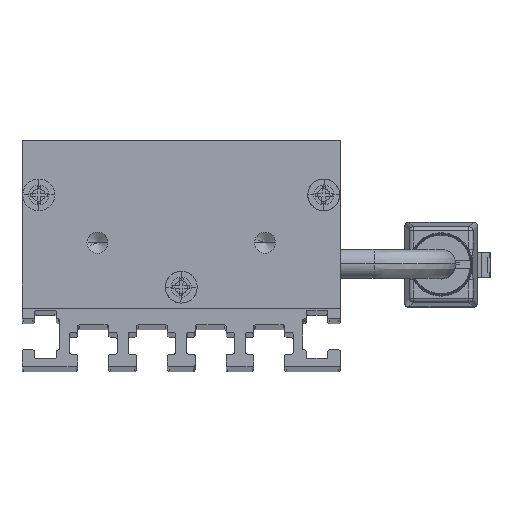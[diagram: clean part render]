
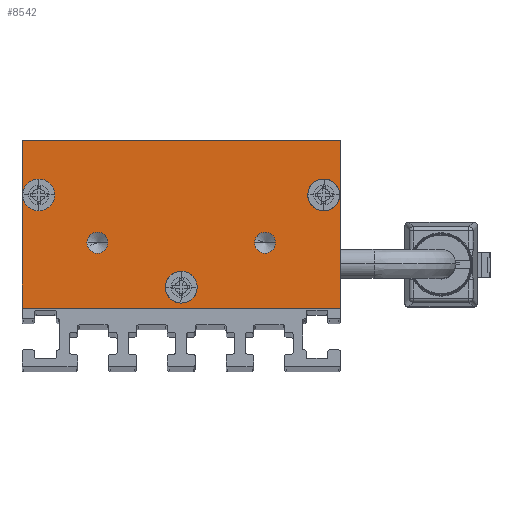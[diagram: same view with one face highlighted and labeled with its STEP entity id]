
A CAD part, top view. The second image highlights one B-rep face of the part: STEP entity #8542.
In plain terms, the highlighted planar face has unit normal (0, 0, 1) as drawn and (0, 0, -1) by its records, which use the part's own axes.
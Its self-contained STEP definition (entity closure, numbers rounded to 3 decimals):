
#377 = DIRECTION ( 'NONE',  ( 0., 0., -1. ) ) ;
#430 = DIRECTION ( 'NONE',  ( -1., 0., 0. ) ) ;
#445 = CARTESIAN_POINT ( 'NONE',  ( 0., 0., -2.5 ) ) ;
#489 = ORIENTED_EDGE ( 'NONE', *, *, #15315, .F. ) ;
#563 = CARTESIAN_POINT ( 'NONE',  ( -15.1, 13.5, -2.5 ) ) ;
#689 = EDGE_CURVE ( 'NONE', #4897, #12582, #3563, .T. ) ;
#755 = LINE ( 'NONE', #13297, #4472 ) ;
#1446 = CARTESIAN_POINT ( 'NONE',  ( 11.25, 7.8, -2.5 ) ) ;
#1677 = FACE_OUTER_BOUND ( 'NONE', #13150, .T. ) ;
#1710 = VERTEX_POINT ( 'NONE', #10610 ) ;
#1953 = AXIS2_PLACEMENT_3D ( 'NONE', #6510, #10145, #13967 ) ;
#2007 = EDGE_CURVE ( 'NONE', #14649, #13573, #15120, .T. ) ;
#2078 = AXIS2_PLACEMENT_3D ( 'NONE', #9175, #377, #14063 ) ;
#2091 = ORIENTED_EDGE ( 'NONE', *, *, #15517, .F. ) ;
#2109 = AXIS2_PLACEMENT_3D ( 'NONE', #9812, #4901, #16376 ) ;
#2257 = DIRECTION ( 'NONE',  ( 0., 0., -1. ) ) ;
#2588 = CIRCLE ( 'NONE', #11357, 1.25 ) ;
#2791 = CARTESIAN_POINT ( 'NONE',  ( 8.75, 7.8, -2.5 ) ) ;
#2872 = VERTEX_POINT ( 'NONE', #563 ) ;
#2938 = FACE_BOUND ( 'NONE', #3687, .T. ) ;
#3035 = EDGE_CURVE ( 'NONE', #8190, #3746, #8361, .T. ) ;
#3145 = AXIS2_PLACEMENT_3D ( 'NONE', #445, #5503, #4262 ) ;
#3304 = AXIS2_PLACEMENT_3D ( 'NONE', #5016, #12431, #10087 ) ;
#3386 = CIRCLE ( 'NONE', #14783, 1.9 ) ;
#3396 = LINE ( 'NONE', #11120, #11118 ) ;
#3549 = VECTOR ( 'NONE', #15173, 1000. ) ;
#3553 = VERTEX_POINT ( 'NONE', #10935 ) ;
#3563 = CIRCLE ( 'NONE', #13637, 1.9 ) ;
#3687 = EDGE_LOOP ( 'NONE', ( #5151, #12622 ) ) ;
#3737 = CARTESIAN_POINT ( 'NONE',  ( -19., 0., -2.5 ) ) ;
#3746 = VERTEX_POINT ( 'NONE', #12277 ) ;
#3783 = VERTEX_POINT ( 'NONE', #9760 ) ;
#3786 = DIRECTION ( 'NONE',  ( 0., 0., -1. ) ) ;
#4262 = DIRECTION ( 'NONE',  ( 1., 0., 0. ) ) ;
#4348 = EDGE_CURVE ( 'NONE', #13003, #9465, #8070, .T. ) ;
#4472 = VECTOR ( 'NONE', #7166, 1000. ) ;
#4719 = CARTESIAN_POINT ( 'NONE',  ( 18.9, 13.5, -2.5 ) ) ;
#4865 = CIRCLE ( 'NONE', #1953, 1.9 ) ;
#4897 = VERTEX_POINT ( 'NONE', #5736 ) ;
#4901 = DIRECTION ( 'NONE',  ( 0., 0., -1. ) ) ;
#5016 = CARTESIAN_POINT ( 'NONE',  ( -10., 7.8, -2.5 ) ) ;
#5151 = ORIENTED_EDGE ( 'NONE', *, *, #13873, .F. ) ;
#5503 = DIRECTION ( 'NONE',  ( 0., 0., 1. ) ) ;
#5705 = ORIENTED_EDGE ( 'NONE', *, *, #6884, .F. ) ;
#5736 = CARTESIAN_POINT ( 'NONE',  ( 15.1, 13.5, -2.5 ) ) ;
#6206 = EDGE_LOOP ( 'NONE', ( #15386, #15390 ) ) ;
#6379 = CARTESIAN_POINT ( 'NONE',  ( -17., 13.5, -2.5 ) ) ;
#6510 = CARTESIAN_POINT ( 'NONE',  ( 17., 13.5, -2.5 ) ) ;
#6557 = EDGE_LOOP ( 'NONE', ( #11670, #14141 ) ) ;
#6637 = EDGE_CURVE ( 'NONE', #9465, #13003, #7016, .T. ) ;
#6680 = EDGE_CURVE ( 'NONE', #12582, #4897, #4865, .T. ) ;
#6770 = PLANE ( 'NONE',  #3145 ) ;
#6812 = EDGE_LOOP ( 'NONE', ( #10802, #16074 ) ) ;
#6877 = CARTESIAN_POINT ( 'NONE',  ( 1.9, 2.5, -2.5 ) ) ;
#6884 = EDGE_CURVE ( 'NONE', #9770, #3783, #7177, .T. ) ;
#7016 = CIRCLE ( 'NONE', #9127, 1.9 ) ;
#7166 = DIRECTION ( 'NONE',  ( -1., 0., 0. ) ) ;
#7177 = LINE ( 'NONE', #11274, #3549 ) ;
#7193 = CARTESIAN_POINT ( 'NONE',  ( 17., 13.5, -2.5 ) ) ;
#7736 = DIRECTION ( 'NONE',  ( 1., 0., 0. ) ) ;
#7821 = CARTESIAN_POINT ( 'NONE',  ( 0., 2.5, -2.5 ) ) ;
#7931 = EDGE_LOOP ( 'NONE', ( #2091, #8615 ) ) ;
#7991 = AXIS2_PLACEMENT_3D ( 'NONE', #15138, #12649, #8592 ) ;
#8016 = FACE_BOUND ( 'NONE', #6206, .T. ) ;
#8070 = CIRCLE ( 'NONE', #9902, 1.9 ) ;
#8086 = FACE_BOUND ( 'NONE', #6557, .T. ) ;
#8190 = VERTEX_POINT ( 'NONE', #10478 ) ;
#8361 = CIRCLE ( 'NONE', #3304, 1.25 ) ;
#8542 = ADVANCED_FACE ( 'NONE', ( #8086, #10580, #10496, #2938, #8016, #1677 ), #6770, .F. ) ;
#8592 = DIRECTION ( 'NONE',  ( -1., 0., 0. ) ) ;
#8615 = ORIENTED_EDGE ( 'NONE', *, *, #9879, .F. ) ;
#8839 = DIRECTION ( 'NONE',  ( 0., 0., -1. ) ) ;
#8842 = CARTESIAN_POINT ( 'NONE',  ( 0., 2.5, -2.5 ) ) ;
#8925 = ORIENTED_EDGE ( 'NONE', *, *, #10598, .F. ) ;
#8974 = LINE ( 'NONE', #3737, #13216 ) ;
#9127 = AXIS2_PLACEMENT_3D ( 'NONE', #8842, #10229, #11309 ) ;
#9175 = CARTESIAN_POINT ( 'NONE',  ( -17., 13.5, -2.5 ) ) ;
#9231 = EDGE_CURVE ( 'NONE', #3746, #8190, #13008, .T. ) ;
#9270 = CIRCLE ( 'NONE', #2078, 1.9 ) ;
#9465 = VERTEX_POINT ( 'NONE', #6877 ) ;
#9760 = CARTESIAN_POINT ( 'NONE',  ( 19., 20., -2.5 ) ) ;
#9770 = VERTEX_POINT ( 'NONE', #11314 ) ;
#9812 = CARTESIAN_POINT ( 'NONE',  ( -10., 7.8, -2.5 ) ) ;
#9879 = EDGE_CURVE ( 'NONE', #2872, #3553, #9270, .T. ) ;
#9902 = AXIS2_PLACEMENT_3D ( 'NONE', #7821, #10475, #430 ) ;
#10087 = DIRECTION ( 'NONE',  ( -1., 0., 0. ) ) ;
#10145 = DIRECTION ( 'NONE',  ( 0., 0., -1. ) ) ;
#10229 = DIRECTION ( 'NONE',  ( 0., 0., -1. ) ) ;
#10475 = DIRECTION ( 'NONE',  ( 0., 0., -1. ) ) ;
#10478 = CARTESIAN_POINT ( 'NONE',  ( -11.25, 7.8, -2.5 ) ) ;
#10496 = FACE_BOUND ( 'NONE', #7931, .T. ) ;
#10580 = FACE_BOUND ( 'NONE', #6812, .T. ) ;
#10598 = EDGE_CURVE ( 'NONE', #1710, #12466, #3396, .T. ) ;
#10610 = CARTESIAN_POINT ( 'NONE',  ( -19., 20., -2.5 ) ) ;
#10802 = ORIENTED_EDGE ( 'NONE', *, *, #4348, .F. ) ;
#10935 = CARTESIAN_POINT ( 'NONE',  ( -18.9, 13.5, -2.5 ) ) ;
#11100 = CARTESIAN_POINT ( 'NONE',  ( -1.9, 2.5, -2.5 ) ) ;
#11118 = VECTOR ( 'NONE', #16196, 1000. ) ;
#11120 = CARTESIAN_POINT ( 'NONE',  ( -19., 20., -2.5 ) ) ;
#11156 = DIRECTION ( 'NONE',  ( -1., 0., 0. ) ) ;
#11274 = CARTESIAN_POINT ( 'NONE',  ( 19., 20., -2.5 ) ) ;
#11309 = DIRECTION ( 'NONE',  ( -1., 0., 0. ) ) ;
#11314 = CARTESIAN_POINT ( 'NONE',  ( 19., 0., -2.5 ) ) ;
#11342 = DIRECTION ( 'NONE',  ( -1., 0., 0. ) ) ;
#11357 = AXIS2_PLACEMENT_3D ( 'NONE', #15208, #2257, #13808 ) ;
#11670 = ORIENTED_EDGE ( 'NONE', *, *, #689, .F. ) ;
#12277 = CARTESIAN_POINT ( 'NONE',  ( -8.75, 7.8, -2.5 ) ) ;
#12431 = DIRECTION ( 'NONE',  ( 0., 0., -1. ) ) ;
#12466 = VERTEX_POINT ( 'NONE', #15369 ) ;
#12582 = VERTEX_POINT ( 'NONE', #4719 ) ;
#12622 = ORIENTED_EDGE ( 'NONE', *, *, #2007, .F. ) ;
#12649 = DIRECTION ( 'NONE',  ( 0., 0., -1. ) ) ;
#13003 = VERTEX_POINT ( 'NONE', #11100 ) ;
#13008 = CIRCLE ( 'NONE', #2109, 1.25 ) ;
#13150 = EDGE_LOOP ( 'NONE', ( #8925, #15363, #5705, #489 ) ) ;
#13216 = VECTOR ( 'NONE', #7736, 1000. ) ;
#13297 = CARTESIAN_POINT ( 'NONE',  ( -19., 20., -2.5 ) ) ;
#13573 = VERTEX_POINT ( 'NONE', #2791 ) ;
#13637 = AXIS2_PLACEMENT_3D ( 'NONE', #7193, #8839, #11156 ) ;
#13808 = DIRECTION ( 'NONE',  ( -1., 0., 0. ) ) ;
#13873 = EDGE_CURVE ( 'NONE', #13573, #14649, #2588, .T. ) ;
#13967 = DIRECTION ( 'NONE',  ( -1., 0., 0. ) ) ;
#14063 = DIRECTION ( 'NONE',  ( -1., 0., 0. ) ) ;
#14141 = ORIENTED_EDGE ( 'NONE', *, *, #6680, .F. ) ;
#14649 = VERTEX_POINT ( 'NONE', #1446 ) ;
#14783 = AXIS2_PLACEMENT_3D ( 'NONE', #6379, #3786, #11342 ) ;
#15120 = CIRCLE ( 'NONE', #7991, 1.25 ) ;
#15138 = CARTESIAN_POINT ( 'NONE',  ( 10., 7.8, -2.5 ) ) ;
#15173 = DIRECTION ( 'NONE',  ( 0., 1., 0. ) ) ;
#15208 = CARTESIAN_POINT ( 'NONE',  ( 10., 7.8, -2.5 ) ) ;
#15315 = EDGE_CURVE ( 'NONE', #12466, #9770, #8974, .T. ) ;
#15363 = ORIENTED_EDGE ( 'NONE', *, *, #16030, .F. ) ;
#15369 = CARTESIAN_POINT ( 'NONE',  ( -19., 0., -2.5 ) ) ;
#15386 = ORIENTED_EDGE ( 'NONE', *, *, #3035, .F. ) ;
#15390 = ORIENTED_EDGE ( 'NONE', *, *, #9231, .F. ) ;
#15517 = EDGE_CURVE ( 'NONE', #3553, #2872, #3386, .T. ) ;
#16030 = EDGE_CURVE ( 'NONE', #3783, #1710, #755, .T. ) ;
#16074 = ORIENTED_EDGE ( 'NONE', *, *, #6637, .F. ) ;
#16196 = DIRECTION ( 'NONE',  ( 0., -1., 0. ) ) ;
#16376 = DIRECTION ( 'NONE',  ( -1., 0., 0. ) ) ;
